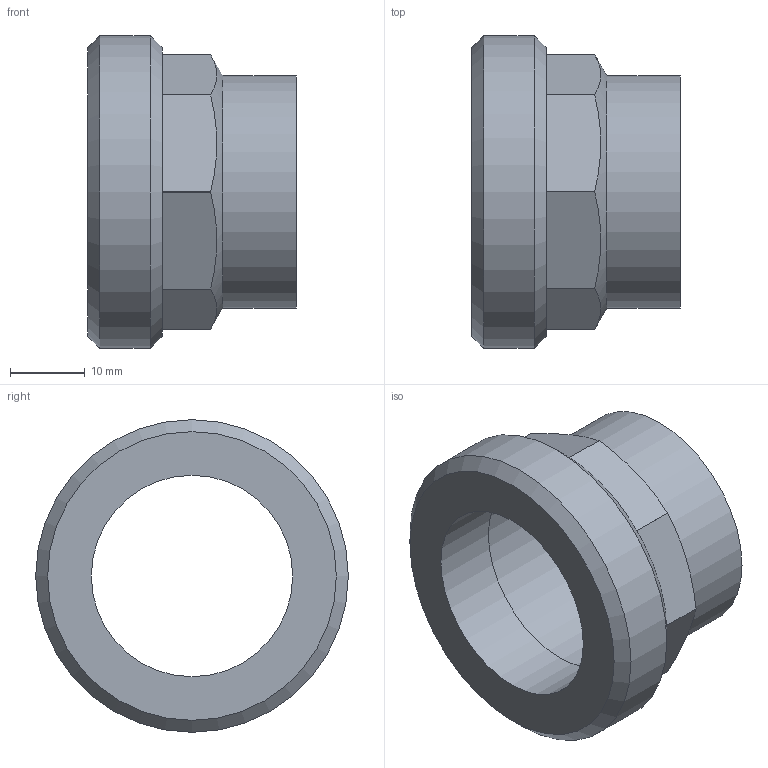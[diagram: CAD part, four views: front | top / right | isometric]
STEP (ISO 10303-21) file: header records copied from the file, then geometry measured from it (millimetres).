
FILE_DESCRIPTION(/* description */ (''),/* implementation_level */ '2;1');
FILE_NAME(/* name */ '\\LG50011\SANHA_Legnica\Engineering\Public\RYSUNKI\SANHA POLSKA\4370\inventor\14370_28-114(1).stp',/* time_stamp */ '2017-06-08T10:24:09+02:00',/* author */ ('gomulka'),/* organization */ (''),/* preprocessor_version */ 'ST-DEVELOPER v15.6',/* originating_system */ 'Autodesk Inventor 2015',/* authorisation */ '');
FILE_SCHEMA (('AUTOMOTIVE_DESIGN { 1 0 10303 214 3 1 1 }'));
Length unit declared in the file: millimetre
Products named in the file (1): 14370_28-114(2)
Bounding box: 28 x 41.91 x 41.91 mm (x, y, z)
Volume: 11832.4 mm3; surface area: 6903 mm2
Topology: 1 solids, 1 shells, 27 faces, 66 edges, 43 vertices
Faces by surface type: cylinder 12, plane 12, cone 3
Full cylindrical faces by diameter (mm): 27 x1, 28 x1, 31.2 x1, 41.91 x1
Entity records: 778 total; most frequent: CARTESIAN_POINT 144, DIRECTION 132, ORIENTED_EDGE 116, EDGE_CURVE 58, AXIS2_PLACEMENT_3D 54, VERTEX_POINT 42, EDGE_LOOP 38, FACE_OUTER_BOUND 27
